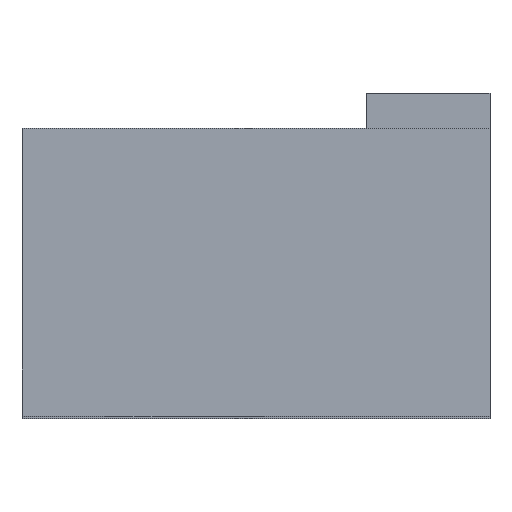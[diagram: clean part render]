
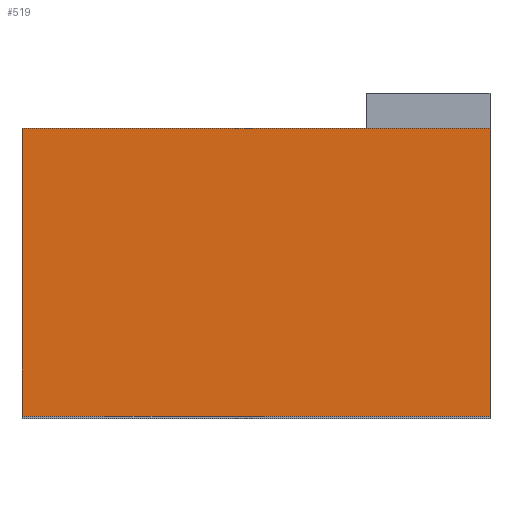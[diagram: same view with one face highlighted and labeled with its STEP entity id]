
A CAD part, top view. The second image highlights one B-rep face of the part: STEP entity #519.
In plain terms, the highlighted planar face has unit normal (0, 0, 1).
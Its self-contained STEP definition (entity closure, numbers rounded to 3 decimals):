
#69=FACE_OUTER_BOUND('',#104,.T.);
#104=EDGE_LOOP('',(#441,#442,#443,#444));
#129=LINE('',#743,#185);
#163=LINE('',#828,#219);
#164=LINE('',#831,#220);
#165=LINE('',#832,#221);
#185=VECTOR('',#601,13.);
#219=VECTOR('',#683,8.);
#220=VECTOR('',#686,13.);
#221=VECTOR('',#687,8.);
#242=VERTEX_POINT('',#740);
#243=VERTEX_POINT('',#742);
#270=VERTEX_POINT('',#826);
#271=VERTEX_POINT('',#830);
#294=EDGE_CURVE('',#242,#243,#129,.T.);
#335=EDGE_CURVE('',#242,#270,#163,.T.);
#336=EDGE_CURVE('',#271,#270,#164,.T.);
#337=EDGE_CURVE('',#271,#243,#165,.T.);
#441=ORIENTED_EDGE('',*,*,#335,.T.);
#442=ORIENTED_EDGE('',*,*,#336,.F.);
#443=ORIENTED_EDGE('',*,*,#337,.T.);
#444=ORIENTED_EDGE('',*,*,#294,.F.);
#493=PLANE('',#559);
#519=ADVANCED_FACE('',(#69),#493,.T.);
#559=AXIS2_PLACEMENT_3D('',#829,#684,#685);
#601=DIRECTION('',(-1.,0.,0.));
#683=DIRECTION('',(0.,1.,0.));
#684=DIRECTION('center_axis',(0.,0.,1.));
#685=DIRECTION('ref_axis',(1.,0.,0.));
#686=DIRECTION('',(1.,0.,0.));
#687=DIRECTION('',(0.,-1.,0.));
#740=CARTESIAN_POINT('',(6.5,-4.,22.5));
#742=CARTESIAN_POINT('',(-6.5,-4.,22.5));
#743=CARTESIAN_POINT('',(-6.5,-4.,22.5));
#826=CARTESIAN_POINT('',(6.5,4.,22.5));
#828=CARTESIAN_POINT('',(6.5,0.,22.5));
#829=CARTESIAN_POINT('Origin',(-6.5,0.,22.5));
#830=CARTESIAN_POINT('',(-6.5,4.,22.5));
#831=CARTESIAN_POINT('',(-6.5,4.,22.5));
#832=CARTESIAN_POINT('',(-6.5,0.,22.5));
